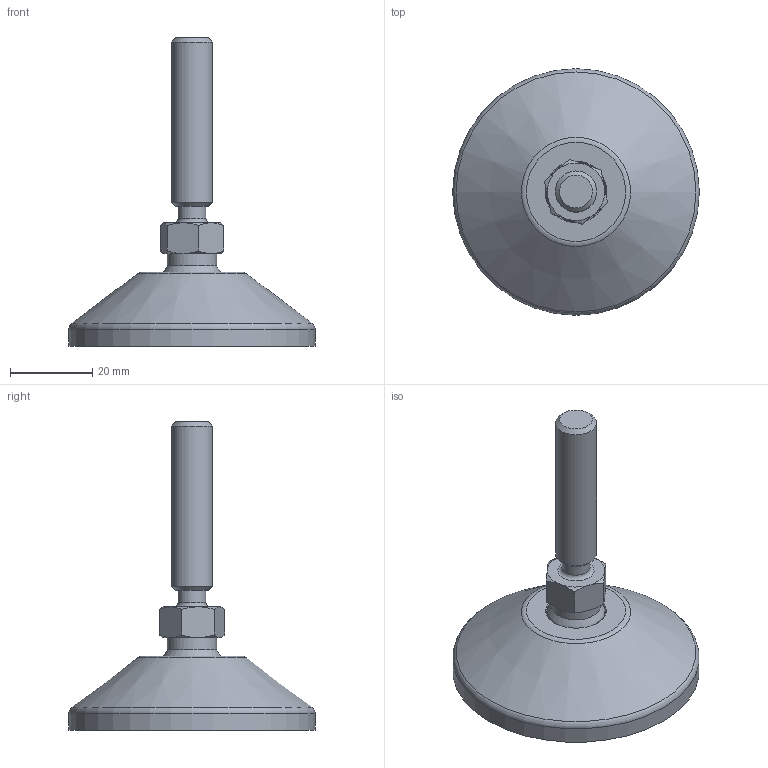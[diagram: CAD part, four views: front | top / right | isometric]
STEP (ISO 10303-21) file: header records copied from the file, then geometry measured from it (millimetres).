
FILE_DESCRIPTION(('STEP AP203'), '1');
FILE_NAME('栖闉罻', '', ('UNSPECIFIED'), ('UNSPECIFIED'), 'C3D Converter', 'C3D Toolkit', '');
FILE_SCHEMA(('CONFIG_CONTROL_DESIGN'));
Length unit declared in the file: millimetre
Products named in the file (3): A00020.110045; A00015.1060
Assembly tree (2 placements, depth 2):
  (unnamed)
    A00020.110045
    A00015.1060
Bounding box: 60 x 60 x 75 mm (x, y, z)
Volume: 26283.6 mm3; surface area: 12493.1 mm2
Topology: 2 solids, 2 shells, 158 faces, 410 edges, 274 vertices
Faces by surface type: plane 85, cylinder 33, torus 21, cone 17, sphere 2
Full cylindrical faces by diameter (mm): 4 x8, 6.8 x1, 10 x1, 12 x1, 14.3 x1, 15 x2, 15.5 x1, 50.5 x1, 60 x1
Entity records: 7892 total; most frequent: CARTESIAN_POINT 2725, DIRECTION 798, ORIENTED_EDGE 754, EDGE_CURVE 377, AXIS2_PLACEMENT_3D 332, VERTEX_POINT 272, EDGE_LOOP 205, FACE_BOUND 175
